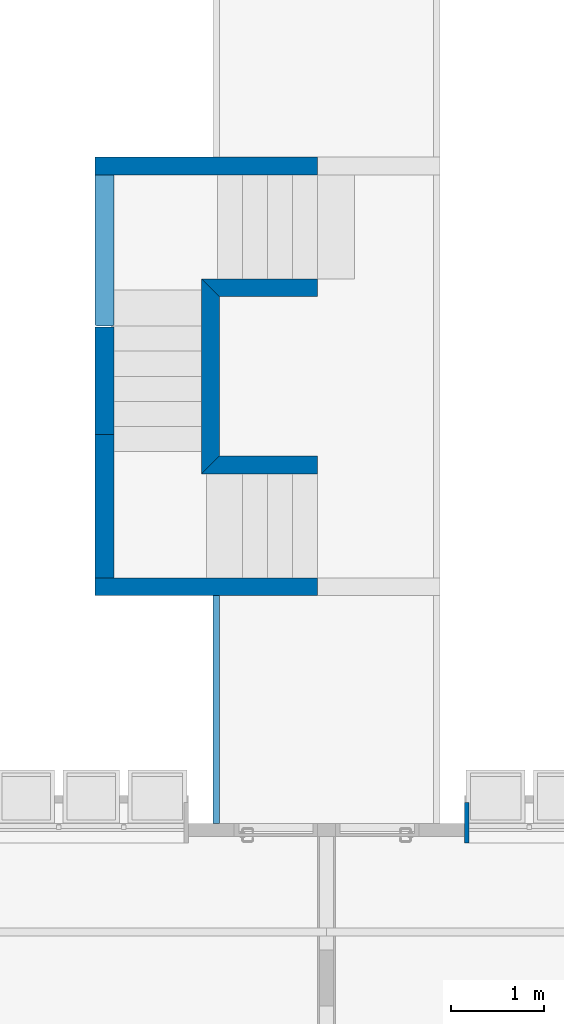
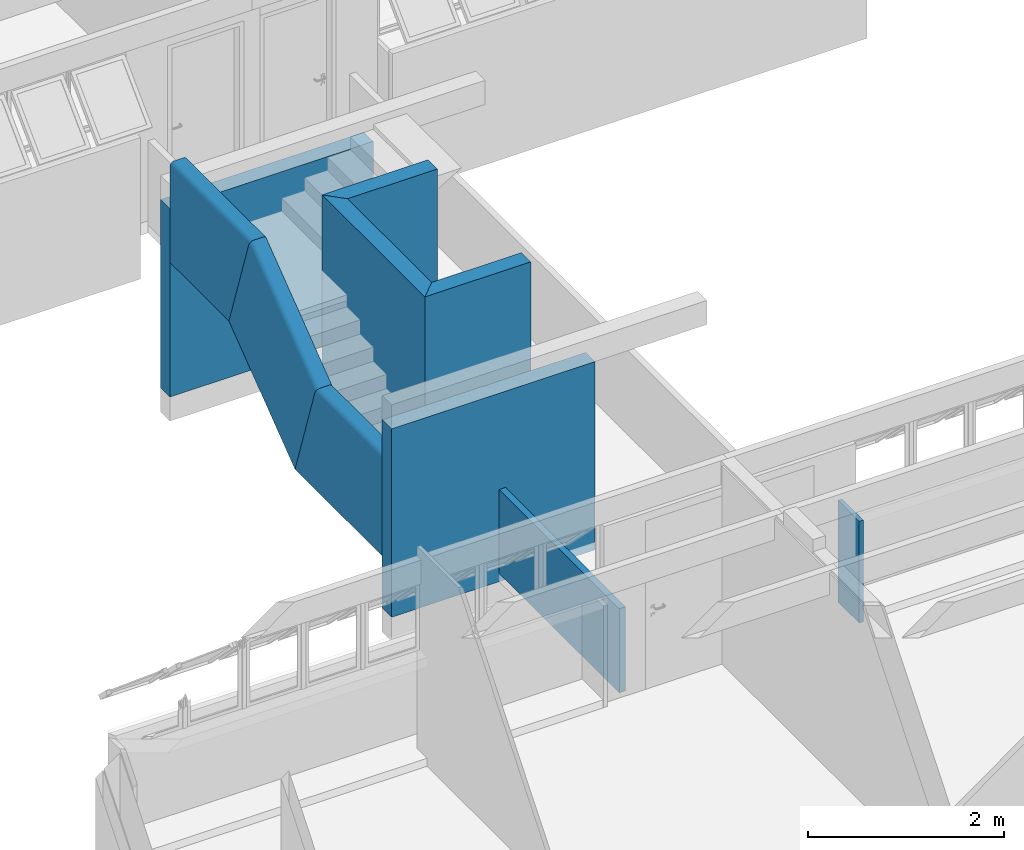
# One storey, part 14 of 37: 10 walls, 1 element without a shape of its own.
"""IFC2X3 building model written with IfcOpenShell, lengths in millimetres."""

import ifcopenshell
import ifcopenshell.guid

model = None  # the IFC model being written
_history = None  # IfcOwnerHistory: only IFC2X3 demands one
_inside = {}  # id of a spatial element -> (the spatial element, [elements in it])
_under = {}  # id of a project, library or spatial element -> (it, [spatial elements below it])
_declared = {}  # id of a project -> (the project, [libraries it declares])
_typed = {}  # id of a type object -> (the type object, [elements of that type])
_made_of = {}  # id of a material, layer set ... -> (it, [elements and type objects made of it])


def new_model(schema):
    """Start an empty IFC model of exactly this schema.

    Asked for "IFC4X3", IfcOpenShell would pick the latest addendum, in which some entities
    have other attributes; the version numbers below select the first issue.
    IFC2X3 requires an IfcOwnerHistory on every rooted entity: one is made here for all.
    """
    global model, _history
    if schema == "IFC4X3":
        model = ifcopenshell.file(schema_version=(4, 3, 0, 0))
    else:
        model = ifcopenshell.file(schema=schema)
    _inside.clear()
    _under.clear()
    _declared.clear()
    _typed.clear()
    _made_of.clear()
    _history = None
    if model.schema == "IFC2X3":
        org = make("IfcOrganization", Name="unknown")
        user = make(
            "IfcPersonAndOrganization",
            ThePerson=make("IfcPerson", FamilyName="unknown"),
            TheOrganization=org,
        )
        app = make(
            "IfcApplication",
            ApplicationDeveloper=org,
            Version="unknown",
            ApplicationFullName="unknown",
            ApplicationIdentifier="unknown",
        )
        _history = make(
            "IfcOwnerHistory",
            OwningUser=user,
            OwningApplication=app,
            ChangeAction="ADDED",
            CreationDate=0,
        )
    return model


def make(cls, **values):
    """One entity of the class cls with the attributes given. An attribute that is None is left unset."""
    return model.create_entity(
        cls, **{name: value for name, value in values.items() if value is not None}
    )


def entity(cls, *values):
    """Any entity or typed value of the class cls, its attributes in the order of the schema. None: left unset."""
    e = model.create_entity(cls)
    for i, value in enumerate(values):
        if value is not None:
            e[i] = value
    return e


def rooted(cls, **values):
    """An entity with a GlobalId (a new one), such as an element, a storey or a relation."""
    return make(cls, GlobalId=ifcopenshell.guid.new(), OwnerHistory=_history, **values)


def si_unit(unit_type, name, prefix=None):
    """IfcSIUnit, for example si_unit("LENGTHUNIT", "METRE", prefix="MILLI")."""
    return make("IfcSIUnit", UnitType=unit_type, Prefix=prefix, Name=name)


def converted_unit(unit_type, name, factor, base, dimensions=None, offset=None):
    """IfcConversionBasedUnit, such as the inch: factor (a typed value) times the base unit."""
    return make(
        "IfcConversionBasedUnit"
        if offset is None
        else "IfcConversionBasedUnitWithOffset",
        ConversionOffset=offset,
        Dimensions=None
        if dimensions is None
        else entity("IfcDimensionalExponents", *dimensions),
        UnitType=unit_type,
        Name=name,
        ConversionFactor=make(
            "IfcMeasureWithUnit", ValueComponent=factor, UnitComponent=base
        ),
    )


def derived_unit(unit_type, elements):
    """IfcDerivedUnit: a product of units, each with its exponent."""
    return make(
        "IfcDerivedUnit",
        Elements=[
            make("IfcDerivedUnitElement", Unit=unit, Exponent=power)
            for unit, power in elements
        ],
        UnitType=unit_type,
    )


def money_unit(currency):
    """IfcMonetaryUnit."""
    return make("IfcMonetaryUnit", Currency=currency)


def assignment(units):
    """IfcUnitAssignment: the units of a project."""
    return None if units is None else make("IfcUnitAssignment", Units=units)


def point(xyz):
    """IfcCartesianPoint."""
    return None if xyz is None else make("IfcCartesianPoint", Coordinates=xyz)


def direction(xyz):
    """IfcDirection."""
    return None if xyz is None else make("IfcDirection", DirectionRatios=xyz)


def frame(location, z_axis=None, x_axis=None):
    """IfcAxis2Placement3D, a coordinate frame: its origin and axes. An axis left out is left unset."""
    return make(
        "IfcAxis2Placement3D",
        Location=point(location),
        Axis=direction(z_axis),
        RefDirection=direction(x_axis),
    )


def origin_with_axes():
    """The frame at (0, 0, 0) with the z axis (0, 0, 1) and the x axis (1, 0, 0) written out."""
    return frame((0.0, 0.0, 0.0), z_axis=(0.0, 0.0, 1.0), x_axis=(1.0, 0.0, 0.0))


def place(relative_to, where):
    """IfcLocalPlacement: puts the frame where relative to a parent placement (None: the world)."""
    return make(
        "IfcLocalPlacement", PlacementRelTo=relative_to, RelativePlacement=where
    )


def context(
    kind, dimensions, precision=None, world=None, true_north=None, identifier=None
):
    """IfcGeometricRepresentationContext, for example the 3D "Model" context."""
    return make(
        "IfcGeometricRepresentationContext",
        ContextIdentifier=identifier,
        ContextType=kind,
        CoordinateSpaceDimension=dimensions,
        Precision=precision,
        WorldCoordinateSystem=world,
        TrueNorth=true_north,
    )


def subcontext(parent, identifier, kind, view, scale=None):
    """IfcGeometricRepresentationSubContext, for example "Body" below "Model"."""
    return make(
        "IfcGeometricRepresentationSubContext",
        ContextIdentifier=identifier,
        ContextType=kind,
        ParentContext=parent,
        TargetScale=scale,
        TargetView=view,
    )


def project(units=None, contexts=None):
    """IfcProject with its units and contexts."""
    return rooted(
        "IfcProject",
        Name="project",
        RepresentationContexts=contexts,
        UnitsInContext=assignment(units),
    )


def spatial(cls, under=None, at=None, **own):
    """A site, building, storey or space (cls), placed at a placement, below another one or the project."""
    s = rooted(cls, ObjectPlacement=at, **own)
    if under is not None:
        _under.setdefault(under.id(), (under, []))[1].append(s)
    return s


def polyline(points):
    """IfcPolyline through the points."""
    return make("IfcPolyline", Points=[point(p) for p in points])


def outline(outer, holes=None, kind="AREA"):
    """IfcArbitraryClosedProfileDef: a profile drawn as a closed curve; with holes, ...WithVoids."""
    if holes is None:
        return make("IfcArbitraryClosedProfileDef", ProfileType=kind, OuterCurve=outer)
    return make(
        "IfcArbitraryProfileDefWithVoids",
        ProfileType=kind,
        OuterCurve=outer,
        InnerCurves=holes,
    )


def extrude(swept, where, along, depth):
    """IfcExtrudedAreaSolid: the profile swept, set in the frame where, extruded along a direction by depth."""
    return make(
        "IfcExtrudedAreaSolid",
        SweptArea=swept,
        Position=where,
        ExtrudedDirection=direction(along),
        Depth=depth,
    )


def faces_of(points, faces, orient=None, outer=None):
    """IfcFace entities. A face is a list of loops; a loop is a list of indices into points, from 0.

    orient and outer hold one flag for each loop. By default every Orientation is true, the
    first loop of a face is its IfcFaceOuterBound and the others are IfcFaceBound.
    """
    made = []
    for i, loops in enumerate(faces):
        bounds = []
        for j, loop in enumerate(loops):
            is_outer = j == 0 if outer is None else outer[i][j]
            bounds.append(
                make(
                    "IfcFaceOuterBound" if is_outer else "IfcFaceBound",
                    Bound=make("IfcPolyLoop", Polygon=[points[k] for k in loop]),
                    Orientation=True if orient is None else orient[i][j],
                )
            )
        made.append(make("IfcFace", Bounds=bounds))
    return made


def faceted_brep(points, faces, orient=None, outer=None, voids=None):
    """IfcFacetedBrep: a solid bounded by flat faces; with voids (closed shells), ...WithVoids."""
    shared = [point(p) for p in points]
    hull = make("IfcClosedShell", CfsFaces=faces_of(shared, faces, orient, outer))
    if voids is None:
        return make("IfcFacetedBrep", Outer=hull)
    return make(
        "IfcFacetedBrepWithVoids",
        Outer=hull,
        Voids=[
            make(cls, CfsFaces=faces_of(shared, fs, o, b)) for cls, fs, o, b in voids
        ],
    )


def shape(context_of_items, identifier, shape_type, items):
    """IfcShapeRepresentation: the items that make up one representation, for example the "Body"."""
    return make(
        "IfcShapeRepresentation",
        ContextOfItems=context_of_items,
        RepresentationIdentifier=identifier,
        RepresentationType=shape_type,
        Items=items,
    )


def source(mapping_origin, context_of_items, identifier, shape_type, items):
    """IfcRepresentationMap: a shape defined once, which mapped items show again and again."""
    return make(
        "IfcRepresentationMap",
        MappingOrigin=mapping_origin,
        MappedRepresentation=shape(context_of_items, identifier, shape_type, items),
    )


def transform(
    local_origin,
    x_axis=None,
    y_axis=None,
    z_axis=None,
    scale=None,
    scale2=None,
    scale3=None,
    uniform=True,
):
    """IfcCartesianTransformationOperator3D, or its non-uniform kind. x_axis, y_axis, z_axis: its Axis1, 2, 3."""
    if uniform:
        return make(
            "IfcCartesianTransformationOperator3D",
            Axis1=direction(x_axis),
            Axis2=direction(y_axis),
            LocalOrigin=point(local_origin),
            Scale=scale,
            Axis3=direction(z_axis),
        )
    return make(
        "IfcCartesianTransformationOperator3DnonUniform",
        Axis1=direction(x_axis),
        Axis2=direction(y_axis),
        LocalOrigin=point(local_origin),
        Scale=scale,
        Axis3=direction(z_axis),
        Scale2=scale2,
        Scale3=scale3,
    )


def mapped(mapping_source, mapping_target):
    """IfcMappedItem: shows the shape of a source again, moved by a transform."""
    return make(
        "IfcMappedItem", MappingSource=mapping_source, MappingTarget=mapping_target
    )


def material(Name=None, Category=None):
    """IfcMaterial."""
    return make("IfcMaterial", Name=Name, Category=Category)


def layer(
    of_material, thickness, ventilated=None, Name=None, Category=None, Priority=None
):
    """IfcMaterialLayer: one layer of a wall or slab, of a material (None: an air gap)."""
    return make(
        "IfcMaterialLayer",
        Material=of_material,
        LayerThickness=thickness,
        IsVentilated=ventilated,
        Name=Name,
        Category=Category,
        Priority=Priority,
    )


def layer_set(layers, Name=None):
    """IfcMaterialLayerSet."""
    return make("IfcMaterialLayerSet", MaterialLayers=layers, LayerSetName=Name)


def layer_usage(for_layer_set, set_direction, sense, offset, extent=None):
    """IfcMaterialLayerSetUsage: how a layer set lies in its element."""
    return make(
        "IfcMaterialLayerSetUsage",
        ForLayerSet=for_layer_set,
        LayerSetDirection=set_direction,
        DirectionSense=sense,
        OffsetFromReferenceLine=offset,
        ReferenceExtent=extent,
    )


def made_of(thing, what):
    """Note that an element or type object is made of a material, layer set ...; save() writes the relation."""
    if what is not None:
        _made_of.setdefault(what.id(), (what, []))[1].append(thing)
    return thing


def type_object(cls, material=None, **own):
    """A type object (cls), such as IfcWallType, which elements share."""
    return made_of(rooted(cls, **own), material)


def element(
    cls,
    number,
    at=None,
    inside=None,
    cuts=None,
    type_object=None,
    material=None,
    context=None,
    identifier="Body",
    shape_type=None,
    held_by="IfcProductDefinitionShape",
    body=None,
    shapes=None,
    **own,
):
    """One element of the class cls, such as IfcWall. Its Tag is "e" and its number.

    at: its placement. inside: the storey or other place that contains it. cuts: it is an
    opening in that element (IfcRelVoidsElement). A single representation is given by context,
    identifier, shape_type and body (its items); several are given by shapes. held_by: the class
    of the entity that holds the representations. save() writes the other relations.
    """
    e = rooted(cls, Tag="e%d" % number, ObjectPlacement=at, **own)
    if body is not None:
        shapes = [shape(context, identifier, shape_type, body)]
    if shapes is not None:
        e.Representation = make(held_by, Representations=shapes)
    if inside is not None:
        _inside.setdefault(inside.id(), (inside, []))[1].append(e)
    if cuts is not None:
        rooted(
            "IfcRelVoidsElement", RelatingBuildingElement=cuts, RelatedOpeningElement=e
        )
    if type_object is not None:
        _typed.setdefault(type_object.id(), (type_object, []))[1].append(e)
    return made_of(e, material)


def aggregate(whole, parts):
    """IfcRelAggregates: a whole, such as a stair, and the parts it consists of."""
    return rooted("IfcRelAggregates", RelatingObject=whole, RelatedObjects=parts)


def save(model, path):
    """Write the relations noted so far, then the file.

    IfcRelAggregates (storeys below a building ...), IfcRelContainedInSpatialStructure (elements
    in a storey), IfcRelDefinesByType, IfcRelAssociatesMaterial and IfcRelDeclares: one each for
    every whole, place, type object, material and project.
    """
    for whole, parts in _under.values():
        aggregate(whole, parts)
    for where, things in _inside.values():
        rooted(
            "IfcRelContainedInSpatialStructure",
            RelatedElements=things,
            RelatingStructure=where,
        )
    for kind, things in _typed.values():
        rooted("IfcRelDefinesByType", RelatedObjects=things, RelatingType=kind)
    for what, things in _made_of.values():
        rooted("IfcRelAssociatesMaterial", RelatedObjects=things, RelatingMaterial=what)
    for by, libraries in _declared.values():
        rooted("IfcRelDeclares", RelatingContext=by, RelatedDefinitions=libraries)
    model.write(path)


model = new_model("IFC2X3")

# Units and contexts
model_context = context("Model", 3, precision=0.01, world=origin_with_axes(), true_north=direction((0.0, 1.0)))
body_context = subcontext(model_context, "Body", "Model", "MODEL_VIEW")
ifc_project = project(units=[si_unit("LENGTHUNIT", "METRE", prefix="MILLI"), si_unit("AREAUNIT", "SQUARE_METRE"), si_unit("VOLUMEUNIT", "CUBIC_METRE"), converted_unit("PLANEANGLEUNIT", "DEGREE", entity("IfcPlaneAngleMeasure", 0.0174532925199), si_unit("PLANEANGLEUNIT", "RADIAN"), dimensions=[0, 0, 0, 0, 0, 0, 0]), money_unit("USD"), converted_unit("TIMEUNIT", "Year", entity("IfcTimeMeasure", 31556926.0), si_unit("TIMEUNIT", "SECOND"), dimensions=[0, 0, 1, 0, 0, 0, 0]), si_unit("MASSUNIT", "GRAM", prefix="KILO"), si_unit("THERMODYNAMICTEMPERATUREUNIT", "DEGREE_CELSIUS"), si_unit("LUMINOUSINTENSITYUNIT", "LUMEN"), si_unit("ENERGYUNIT", "JOULE", prefix="MEGA"), derived_unit("THERMALCONDUCTANCEUNIT", [(si_unit("POWERUNIT", "WATT"), 1), (si_unit("LENGTHUNIT", "METRE"), -1), (si_unit("THERMODYNAMICTEMPERATUREUNIT", "KELVIN"), -1)]), derived_unit("SPECIFICHEATCAPACITYUNIT", [(si_unit("ENERGYUNIT", "JOULE"), 1), (si_unit("MASSUNIT", "GRAM", prefix="KILO"), -1), (si_unit("THERMODYNAMICTEMPERATUREUNIT", "KELVIN"), -1)]), derived_unit("MASSDENSITYUNIT", [(si_unit("MASSUNIT", "GRAM", prefix="KILO"), 1), (si_unit("VOLUMEUNIT", "CUBIC_METRE"), -1)])], contexts=[model_context])

# Site, building, storey
site_placement = place(None, origin_with_axes())
site = spatial("IfcSite", under=ifc_project, at=site_placement, Name="Local", CompositionType="ELEMENT")
building_placement = place(site_placement, origin_with_axes())
building = spatial("IfcBuilding", under=site, at=building_placement, Name="Construção", CompositionType="ELEMENT")
storey_placement = place(building_placement, origin_with_axes())
storey = spatial("IfcBuildingStorey", under=building, at=storey_placement, Name="Primeiro Pavimento", CompositionType="ELEMENT", Elevation=0.0)

# Walls
ifc_material_1 = material(Name="GENÉRICO - VEDAÇÃO EXTERNA")
ifc_layer_1 = layer(ifc_material_1, 190.0, ventilated="UNKNOWN")
ifc_layer_set_1 = layer_set([ifc_layer_1], Name="GENÉRICO - VEDAÇÃO EXTERNA 190")
ifc_layer_usage_1 = layer_usage(ifc_layer_set_1, "AXIS2", "NEGATIVE", 0.0)
wall_type_1 = type_object("IfcWallType", Name="GENÉRICO - VEDAÇÃO EXTERNA 190", PredefinedType="NOTDEFINED")
wall_1_placement = place(storey_placement, frame((4890.0, 10910.0, -150.0), z_axis=(0.0, 0.0, 1.0), x_axis=(1.0, 0.0, 0.0)))
element("IfcWallStandardCase", 1, at=wall_1_placement, inside=storey, type_object=wall_type_1, material=ifc_layer_usage_1, Name="CIRC1-PAREDE-021", context=body_context, shape_type="SweptSolid", body=[
    extrude(outline(polyline([(0.0, -190.0), (2400.0, -190.0), (2400.0, 0.0), (0.0, 0.0), (0.0, -190.0)])), origin_with_axes(), (0.0, 0.0, 1.0), 2350.0),
])
ifc_layer_usage_2 = layer_usage(ifc_layer_set_1, "AXIS2", "NEGATIVE", 0.0)
wall_2_placement = place(storey_placement, frame((4890.0, 15440.0, -150.0), z_axis=(0.0, 0.0, 1.0), x_axis=(1.0, 0.0, 0.0)))
element("IfcWallStandardCase", 2, at=wall_2_placement, inside=storey, type_object=wall_type_1, material=ifc_layer_usage_2, Name="CIRC1-PAREDE-020", context=body_context, shape_type="SweptSolid", body=[
    extrude(outline(polyline([(0.0, -190.0), (2400.0, -190.0), (2400.0, 0.0), (0.0, 0.0), (0.0, -190.0)])), origin_with_axes(), (0.0, 0.0, 1.0), 2350.0),
])
ifc_material_2 = material(Name="Concreto Armado Moldado in Loco - Estrutural")
ifc_layer_2 = layer(ifc_material_2, 190.0, ventilated="UNKNOWN")
ifc_layer_set_2 = layer_set([ifc_layer_2], Name="Concreto Armado Moldado in Loco - Estrutural 190")
ifc_layer_usage_3 = layer_usage(ifc_layer_set_2, "AXIS2", "NEGATIVE", 0.0)
wall_type_2 = type_object("IfcWallType", Name="Concreto Armado Moldado in Loco - Estrutural 190", PredefinedType="NOTDEFINED")
wall_3_placement = place(storey_placement, frame((6230.0, 12220.0, -50.0), z_axis=(0.0, 0.0, 1.0), x_axis=(1.0, 0.0, 0.0)))
element("IfcWallStandardCase", 3, at=wall_3_placement, inside=storey, type_object=wall_type_2, material=ifc_layer_usage_3, Name="CIRC1-PAREDE-023", context=body_context, shape_type="SweptSolid", body=[
    extrude(outline(polyline([(-190.0, -190.0), (1060.0, -190.0), (1060.0, 0.0), (0.0, 0.0), (-190.0, -190.0)])), origin_with_axes(), (0.0, 0.0, 1.0), 2700.0),
])
ifc_layer_usage_4 = layer_usage(ifc_layer_set_2, "AXIS2", "NEGATIVE", 0.0)
wall_4_placement = place(storey_placement, frame((6230.0, 13940.0, -50.0), z_axis=(0.0, 0.0, 1.0), x_axis=(0.0, -1.0, 0.0)))
element("IfcWallStandardCase", 4, at=wall_4_placement, inside=storey, type_object=wall_type_2, material=ifc_layer_usage_4, Name="CIRC1-PAREDE-022", context=body_context, shape_type="SweptSolid", body=[
    extrude(outline(polyline([(-190.0, -190.0), (1910.0, -190.0), (1720.0, 0.0), (0.0, 0.0), (-190.0, -190.0)])), origin_with_axes(), (0.0, 0.0, 1.0), 2700.0),
])
ifc_layer_usage_5 = layer_usage(ifc_layer_set_2, "AXIS2", "NEGATIVE", 0.0)
wall_5_placement = place(storey_placement, frame((7290.0, 13940.0, -50.0), z_axis=(0.0, 0.0, 1.0), x_axis=(-1.0, 0.0, 0.0)))
element("IfcWallStandardCase", 5, at=wall_5_placement, inside=storey, type_object=wall_type_2, material=ifc_layer_usage_5, Name="CIRC1-PAREDE-024", context=body_context, shape_type="SweptSolid", body=[
    extrude(outline(polyline([(0.0, -190.0), (1250.0, -190.0), (1060.0, 0.0), (0.0, 0.0), (0.0, -190.0)])), origin_with_axes(), (0.0, 0.0, 1.0), 2700.0),
])

# Railing, walls
railing_type = type_object("IfcRailingType", Name="Tipo de Guarda-Corpo", PredefinedType="NOTDEFINED")
railing_placement = place(storey_placement, frame((4890.0, 10910.0, 500.0), z_axis=(0.0, 0.0, 1.0), x_axis=(1.0, 0.0, 0.0)))
railing = element("IfcRailing", 6, at=railing_placement, inside=storey, type_object=railing_type, Name="CIRC1-GC-002", PredefinedType="NOTDEFINED")
ifc_material_3 = material(Name="Concreto")
wall_type_3 = type_object("IfcWallType", Name="IfcWall", PredefinedType="NOTDEFINED")
shared_shape_1 = source(origin_with_axes(), body_context, "Body", "Brep", [
    faceted_brep([(102.555801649, 0.0, 1250.0), (155.222345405, 0.0, 1250.0), (155.222345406, 1360.0, 1250.0), (102.555801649, 1360.0, 1250.0), (102.555801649, 0.0, 0.0), (205.111603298, 0.0, 0.0), (205.111603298, 0.0, 1203.32595053), (203.863102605, 0.0, 1211.57915105), (201.259002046, 0.0, 1219.50964493), (197.371876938, 0.0, 1226.89641224), (192.310060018, 0.0, 1233.53358652), (186.214622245, 0.0, 1239.23619217), (179.255441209, 0.0, 1243.8452997), (171.626466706, 0.0, 1247.23245499), (163.540315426, 0.0, 1249.30325927), (163.540315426, 1360.23554641, 1249.30325927), (171.626466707, 1360.93562106, 1247.23245499), (179.25544121, 1362.08071312, 1243.8452997), (186.214622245, 1363.6389093, 1239.23619217), (192.310060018, 1365.56678325, 1233.53358652), (197.371876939, 1367.81060584, 1226.89641224), (201.259002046, 1370.30784257, 1219.50964493), (203.863102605, 1372.98889638, 1211.57915105), (205.111603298, 1375.77904728, 1203.32595053), (205.111603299, 1782.58619778, 0.0), (102.555801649, 1782.58619778, 0.0)], [[[0, 1, 2, 3]], [[0, 4, 5, 6, 7, 8, 9, 10, 11, 12, 13, 14, 1]], [[1, 14, 15, 2]], [[3, 2, 15, 16, 17, 18, 19, 20, 21, 22, 23, 24, 25]], [[4, 0, 3, 25]], [[5, 4, 25, 24]], [[6, 5, 24, 23]], [[7, 6, 23, 22]], [[8, 7, 22, 21]], [[9, 8, 21, 20]], [[10, 9, 20, 19]], [[11, 10, 19, 18]], [[12, 11, 18, 17]], [[13, 12, 17, 16]], [[14, 13, 16, 15]]]),
    faceted_brep([(102.555801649, 0.0, 0.0), (0.0, 0.0, 0.0), (2.67611799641e-10, 1782.58619778, 0.0), (102.555801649, 1782.58619778, 0.0), (102.555801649, 0.0, 1250.0), (49.8892578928, 0.0, 1250.0), (41.5712878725, 0.0, 1249.30325927), (33.485136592, 0.0, 1247.23245499), (25.8561620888, 0.0, 1243.8452997), (18.8969810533, 0.0, 1239.23619217), (12.8015432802, 0.0, 1233.53358652), (7.73972635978, 0.0, 1226.89641224), (3.85260125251, 0.0, 1219.50964493), (1.24850069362, 0.0, 1211.57915105), (0.0, 0.0, 1203.32595053), (2.06578442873e-10, 1375.77904728, 1203.32595053), (1.24850069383, 1372.98889638, 1211.57915105), (3.85260125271, 1370.30784257, 1219.50964493), (7.73972635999, 1367.81060584, 1226.89641224), (12.8015432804, 1365.56678325, 1233.53358652), (18.8969810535, 1363.6389093, 1239.23619217), (25.856162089, 1362.08071312, 1243.8452997), (33.4851365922, 1360.93562106, 1247.23245499), (41.5712878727, 1360.23554641, 1249.30325927), (49.889257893, 1360.0, 1250.0), (102.555801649, 1360.0, 1250.0)], [[[0, 1, 2, 3]], [[0, 4, 5, 6, 7, 8, 9, 10, 11, 12, 13, 14, 1]], [[1, 14, 15, 2]], [[3, 2, 15, 16, 17, 18, 19, 20, 21, 22, 23, 24, 25]], [[4, 0, 3, 25]], [[5, 4, 25, 24]], [[6, 5, 24, 23]], [[7, 6, 23, 22]], [[8, 7, 22, 21]], [[9, 8, 21, 20]], [[10, 9, 20, 19]], [[11, 10, 19, 18]], [[12, 11, 18, 17]], [[13, 12, 17, 16]], [[14, 13, 16, 15]]]),
])
wall_6_placement = place(railing_placement, frame((1.02140518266e-10, 680.0, -16.7165309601), z_axis=(0.0, 0.0, 1.0), x_axis=(1.0, 0.0, 0.0)))
wall_6 = element("IfcWall", 7, at=wall_6_placement, type_object=wall_type_3, material=ifc_material_3, Name="CIRC1-GC - Barra Superior - 001", context=body_context, shape_type="MappedRepresentation", body=[
    mapped(shared_shape_1, transform((-1.02140518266e-10, -680.0, 16.7165309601))),
])
shared_shape_2 = source(origin_with_axes(), body_context, "Body", "Brep", [
    faceted_brep([(102.555801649, 0.0, 1250.0), (155.222345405, 0.0, 1250.0), (155.222345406, 1350.0, 2280.57075871), (102.555801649, 1350.0, 2280.57075871), (102.555801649, 422.586197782, 0.0), (205.111603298, 422.586197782, 0.0), (205.111603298, 15.7790472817, 1203.32595053), (203.863102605, 12.9888963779, 1211.57915105), (201.259002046, 10.3078425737, 1219.50964493), (197.371876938, 7.81060584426, 1226.89641224), (192.310060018, 5.56678325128, 1233.53358652), (186.214622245, 3.6389092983, 1239.23619217), (179.255441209, 2.08071311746, 1243.8452997), (171.626466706, 0.935621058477, 1247.23245499), (163.540315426, 0.235546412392, 1249.30325927), (163.540315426, 1350.23554641, 2279.87401798), (171.626466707, 1350.93562106, 2277.8032137), (179.25544121, 1352.08071312, 2274.41605841), (186.214622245, 1353.6389093, 2269.80695088), (192.310060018, 1355.56678325, 2264.10434523), (197.371876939, 1357.81060584, 2257.46717095), (201.259002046, 1360.30784257, 2250.08040364), (203.863102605, 1362.98889638, 2242.14990976), (205.111603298, 1365.77904728, 2233.89670923), (205.111603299, 1772.58619778, 1030.57075871), (102.555801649, 1772.58619778, 1030.57075871)], [[[0, 1, 2, 3]], [[0, 4, 5, 6, 7, 8, 9, 10, 11, 12, 13, 14, 1]], [[1, 14, 15, 2]], [[3, 2, 15, 16, 17, 18, 19, 20, 21, 22, 23, 24, 25]], [[4, 0, 3, 25]], [[5, 4, 25, 24]], [[6, 5, 24, 23]], [[7, 6, 23, 22]], [[8, 7, 22, 21]], [[9, 8, 21, 20]], [[10, 9, 20, 19]], [[11, 10, 19, 18]], [[12, 11, 18, 17]], [[13, 12, 17, 16]], [[14, 13, 16, 15]]]),
    faceted_brep([(102.555801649, 422.586197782, 0.0), (0.0, 422.586197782, 0.0), (2.65861798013e-10, 1772.58619778, 1030.57075871), (102.555801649, 1772.58619778, 1030.57075871), (102.555801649, 0.0, 1250.0), (49.8892578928, 0.0, 1250.0), (41.5712878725, 0.23554641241, 1249.30325927), (33.485136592, 0.935621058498, 1247.23245499), (25.8561620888, 2.08071311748, 1243.8452997), (18.8969810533, 3.63890929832, 1239.23619217), (12.8015432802, 5.5667832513, 1233.53358652), (7.73972635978, 7.81060584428, 1226.89641224), (3.85260125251, 10.3078425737, 1219.50964493), (1.24850069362, 12.9888963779, 1211.57915105), (0.0, 15.7790472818, 1203.32595053), (2.04803070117e-10, 1365.77904728, 2233.89670923), (1.24850069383, 1362.98889638, 2242.14990976), (3.85260125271, 1360.30784257, 2250.08040364), (7.73972635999, 1357.81060584, 2257.46717095), (12.8015432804, 1355.56678325, 2264.10434523), (18.8969810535, 1353.6389093, 2269.80695088), (25.856162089, 1352.08071312, 2274.41605841), (33.4851365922, 1350.93562106, 2277.8032137), (41.5712878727, 1350.23554641, 2279.87401798), (49.889257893, 1350.0, 2280.57075871), (102.555801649, 1350.0, 2280.57075871)], [[[0, 1, 2, 3]], [[0, 4, 5, 6, 7, 8, 9, 10, 11, 12, 13, 14, 1]], [[1, 14, 15, 2]], [[3, 2, 15, 16, 17, 18, 19, 20, 21, 22, 23, 24, 25]], [[4, 0, 3, 25]], [[5, 4, 25, 24]], [[6, 5, 24, 23]], [[7, 6, 23, 22]], [[8, 7, 22, 21]], [[9, 8, 21, 20]], [[10, 9, 20, 19]], [[11, 10, 19, 18]], [[12, 11, 18, 17]], [[13, 12, 17, 16]], [[14, 13, 16, 15]]]),
])
wall_7_placement = place(railing_placement, frame((3.05533376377e-10, 2035.0, -16.7165309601), z_axis=(0.0, 0.0, 1.0), x_axis=(1.0, 0.0, 0.0)))
wall_7 = element("IfcWall", 8, at=wall_7_placement, type_object=wall_type_3, material=ifc_material_3, Name="CIRC1-GC - Barra Superior - 001", context=body_context, shape_type="MappedRepresentation", body=[
    mapped(shared_shape_2, transform((-1.01252339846e-10, -675.0, 16.7165309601))),
])
shared_shape_3 = source(origin_with_axes(), body_context, "Body", "Brep", [
    faceted_brep([(102.555801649, 0.0, 1250.0), (155.222345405, 0.0, 1250.0), (155.222345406, 1630.0, 1250.0), (102.555801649, 1630.0, 1250.0), (102.555801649, 422.586197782, 0.0), (205.111603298, 422.586197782, 0.0), (205.111603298, 15.7790472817, 1203.32595053), (203.863102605, 12.9888963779, 1211.57915105), (201.259002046, 10.3078425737, 1219.50964493), (197.371876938, 7.81060584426, 1226.89641224), (192.310060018, 5.56678325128, 1233.53358652), (186.214622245, 3.6389092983, 1239.23619217), (179.255441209, 2.08071311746, 1243.8452997), (171.626466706, 0.935621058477, 1247.23245499), (163.540315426, 0.235546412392, 1249.30325927), (163.540315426, 1630.0, 1249.30325927), (171.626466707, 1630.0, 1247.23245499), (179.25544121, 1630.0, 1243.8452997), (186.214622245, 1630.0, 1239.23619217), (192.310060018, 1630.0, 1233.53358652), (197.371876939, 1630.0, 1226.89641224), (201.259002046, 1630.0, 1219.50964493), (203.863102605, 1630.0, 1211.57915105), (205.111603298, 1630.0, 1203.32595053), (205.111603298, 1630.0, 0.0), (102.555801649, 1630.0, 0.0)], [[[0, 1, 2, 3]], [[0, 4, 5, 6, 7, 8, 9, 10, 11, 12, 13, 14, 1]], [[1, 14, 15, 2]], [[3, 2, 15, 16, 17, 18, 19, 20, 21, 22, 23, 24, 25]], [[4, 0, 3, 25]], [[5, 4, 25, 24]], [[6, 5, 24, 23]], [[7, 6, 23, 22]], [[8, 7, 22, 21]], [[9, 8, 21, 20]], [[10, 9, 20, 19]], [[11, 10, 19, 18]], [[12, 11, 18, 17]], [[13, 12, 17, 16]], [[14, 13, 16, 15]]]),
    faceted_brep([(102.555801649, 422.586197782, 0.0), (0.0, 422.586197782, 0.0), (2.45081732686e-10, 1630.0, 0.0), (102.555801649, 1630.0, 0.0), (102.555801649, 0.0, 1250.0), (49.8892578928, 0.0, 1250.0), (41.5712878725, 0.23554641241, 1249.30325927), (33.485136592, 0.935621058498, 1247.23245499), (25.8561620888, 2.08071311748, 1243.8452997), (18.8969810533, 3.63890929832, 1239.23619217), (12.8015432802, 5.5667832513, 1233.53358652), (7.73972635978, 7.81060584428, 1226.89641224), (3.85260125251, 10.3078425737, 1219.50964493), (1.24850069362, 12.9888963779, 1211.57915105), (0.0, 15.7790472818, 1203.32595053), (2.45067854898e-10, 1630.0, 1203.32595053), (1.24850069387, 1630.0, 1211.57915105), (3.85260125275, 1630.0, 1219.50964493), (7.73972636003, 1630.0, 1226.89641224), (12.8015432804, 1630.0, 1233.53358652), (18.8969810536, 1630.0, 1239.23619217), (25.8561620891, 1630.0, 1243.8452997), (33.4851365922, 1630.0, 1247.23245499), (41.5712878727, 1630.0, 1249.30325927), (49.8892578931, 1630.0, 1250.0), (102.555801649, 1630.0, 1250.0)], [[[0, 1, 2, 3]], [[0, 4, 5, 6, 7, 8, 9, 10, 11, 12, 13, 14, 1]], [[1, 14, 15, 2]], [[3, 2, 15, 16, 17, 18, 19, 20, 21, 22, 23, 24, 25]], [[4, 0, 3, 25]], [[5, 4, 25, 24]], [[6, 5, 24, 23]], [[7, 6, 23, 22]], [[8, 7, 22, 21]], [[9, 8, 21, 20]], [[10, 9, 20, 19]], [[11, 10, 19, 18]], [[12, 11, 18, 17]], [[13, 12, 17, 16]], [[14, 13, 16, 15]]]),
])
wall_8_placement = place(railing_placement, frame((5.29354338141e-10, 3525.0, 1013.85422775), z_axis=(0.0, 0.0, 1.0), x_axis=(1.0, 0.0, 0.0)))
wall_8 = element("IfcWall", 9, at=wall_8_placement, type_object=wall_type_3, material=ifc_material_3, Name="CIRC1-GC - Barra Superior - 001", context=body_context, shape_type="MappedRepresentation", body=[
    mapped(shared_shape_3, transform((-1.22568621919e-10, -815.0, 16.7165309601))),
])
aggregate(railing, [wall_6, wall_7, wall_8])

# Walls
ifc_layer_3 = layer(ifc_material_2, 50.0, ventilated="UNKNOWN")
ifc_layer_set_3 = layer_set([ifc_layer_3], Name="Concreto Armado Moldado in Loco - Estrutural 50")
ifc_layer_usage_6 = layer_usage(ifc_layer_set_3, "AXIS2", "NEGATIVE", 50.0)
wall_type_4 = type_object("IfcWallType", Name="Concreto Armado Moldado in Loco - Estrutural 50", PredefinedType="NOTDEFINED")
wall_9_placement = place(storey_placement, frame((8920.0, 8054.99999866, 0.0), z_axis=(0.0, 0.0, 1.0), x_axis=(0.0, 1.0, 0.0)))
element("IfcWallStandardCase", 10, at=wall_9_placement, inside=storey, type_object=wall_type_4, material=ifc_layer_usage_6, Name="APTO2-PAREDE-016", context=body_context, shape_type="SweptSolid", body=[
    extrude(outline(polyline([(0.0, 0.0), (435.0, 0.0), (435.0, 50.0), (0.0, 50.0), (0.0, 0.0)])), origin_with_axes(), (0.0, 0.0, 1.0), 1270.0),
])
ifc_layer_4 = layer(ifc_material_1, 75.0, ventilated="UNKNOWN")
ifc_layer_set_4 = layer_set([ifc_layer_4], Name="GENÉRICO - VEDAÇÃO EXTERNA 75")
ifc_layer_usage_7 = layer_usage(ifc_layer_set_4, "AXIS2", "NEGATIVE", 0.0)
wall_type_5 = type_object("IfcWallType", Name="GENÉRICO - VEDAÇÃO EXTERNA 75", PredefinedType="NOTDEFINED")
wall_10_placement = place(storey_placement, frame((6160.0, 8265.0, -50.0), z_axis=(0.0, 0.0, 1.0), x_axis=(0.0, 1.0, 0.0)))
element("IfcWallStandardCase", 11, at=wall_10_placement, inside=storey, type_object=wall_type_5, material=ifc_layer_usage_7, Name="CIRC1-PAREDE-025", context=body_context, shape_type="SweptSolid", body=[
    extrude(outline(polyline([(0.0, -75.0), (2455.0, -75.0), (2455.0, 0.0), (0.0, 0.0), (0.0, -75.0)])), origin_with_axes(), (0.0, 0.0, 1.0), 1050.0),
])

save(model, "model.ifc")
